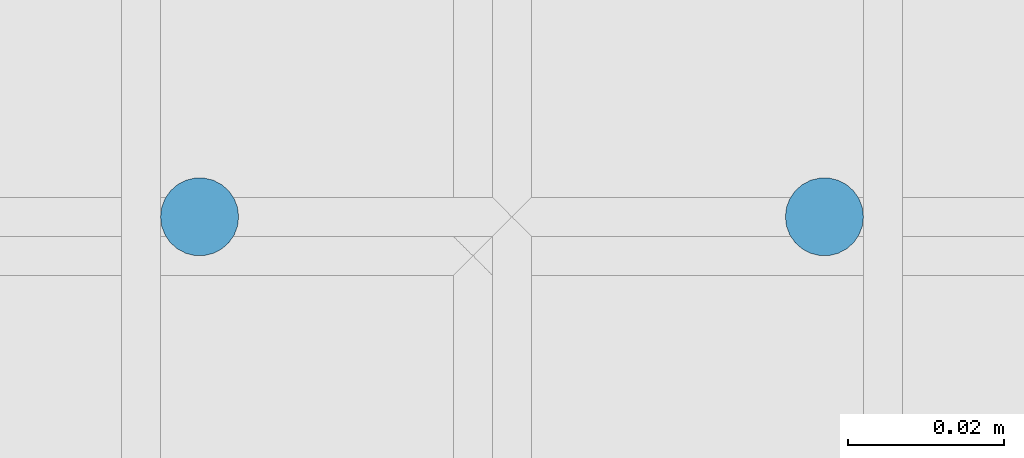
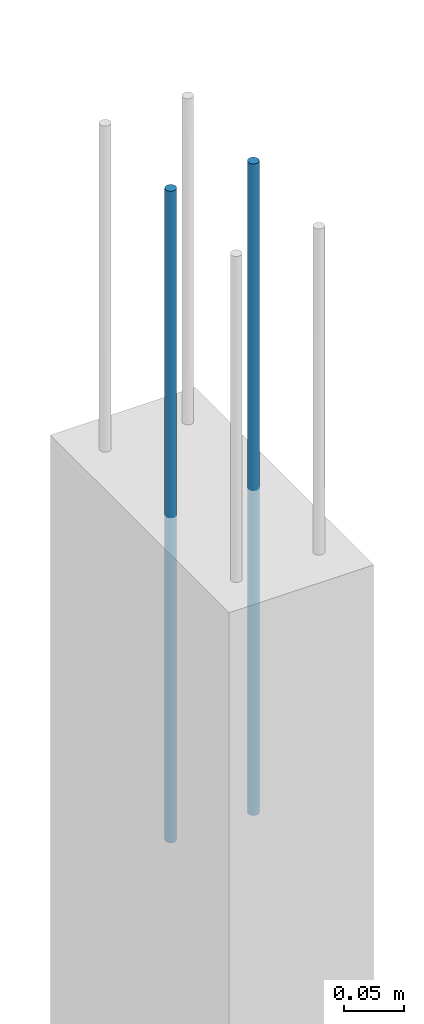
# One storey, part 74 of 119: 2 reinforcing bars.
"""IFC4 building model written with IfcOpenShell, lengths in centimetres."""

import ifcopenshell
import ifcopenshell.guid

model = None  # the IFC model being written
_history = None  # IfcOwnerHistory: only IFC2X3 demands one
_inside = {}  # id of a spatial element -> (the spatial element, [elements in it])
_under = {}  # id of a project, library or spatial element -> (it, [spatial elements below it])
_declared = {}  # id of a project -> (the project, [libraries it declares])
_typed = {}  # id of a type object -> (the type object, [elements of that type])
_made_of = {}  # id of a material, layer set ... -> (it, [elements and type objects made of it])


def new_model(schema):
    """Start an empty IFC model of exactly this schema.

    Asked for "IFC4X3", IfcOpenShell would pick the latest addendum, in which some entities
    have other attributes; the version numbers below select the first issue.
    IFC2X3 requires an IfcOwnerHistory on every rooted entity: one is made here for all.
    """
    global model, _history
    if schema == "IFC4X3":
        model = ifcopenshell.file(schema_version=(4, 3, 0, 0))
    else:
        model = ifcopenshell.file(schema=schema)
    _inside.clear()
    _under.clear()
    _declared.clear()
    _typed.clear()
    _made_of.clear()
    _history = None
    if model.schema == "IFC2X3":
        org = make("IfcOrganization", Name="unknown")
        user = make(
            "IfcPersonAndOrganization",
            ThePerson=make("IfcPerson", FamilyName="unknown"),
            TheOrganization=org,
        )
        app = make(
            "IfcApplication",
            ApplicationDeveloper=org,
            Version="unknown",
            ApplicationFullName="unknown",
            ApplicationIdentifier="unknown",
        )
        _history = make(
            "IfcOwnerHistory",
            OwningUser=user,
            OwningApplication=app,
            ChangeAction="ADDED",
            CreationDate=0,
        )
    return model


def make(cls, **values):
    """One entity of the class cls with the attributes given. An attribute that is None is left unset."""
    return model.create_entity(
        cls, **{name: value for name, value in values.items() if value is not None}
    )


def entity(cls, *values):
    """Any entity or typed value of the class cls, its attributes in the order of the schema. None: left unset."""
    e = model.create_entity(cls)
    for i, value in enumerate(values):
        if value is not None:
            e[i] = value
    return e


def rooted(cls, **values):
    """An entity with a GlobalId (a new one), such as an element, a storey or a relation."""
    return make(cls, GlobalId=ifcopenshell.guid.new(), OwnerHistory=_history, **values)


def si_unit(unit_type, name, prefix=None):
    """IfcSIUnit, for example si_unit("LENGTHUNIT", "METRE", prefix="MILLI")."""
    return make("IfcSIUnit", UnitType=unit_type, Prefix=prefix, Name=name)


def derived_unit(unit_type, elements):
    """IfcDerivedUnit: a product of units, each with its exponent."""
    return make(
        "IfcDerivedUnit",
        Elements=[
            make("IfcDerivedUnitElement", Unit=unit, Exponent=power)
            for unit, power in elements
        ],
        UnitType=unit_type,
    )


def assignment(units):
    """IfcUnitAssignment: the units of a project."""
    return None if units is None else make("IfcUnitAssignment", Units=units)


def point(xyz):
    """IfcCartesianPoint."""
    return None if xyz is None else make("IfcCartesianPoint", Coordinates=xyz)


def direction(xyz):
    """IfcDirection."""
    return None if xyz is None else make("IfcDirection", DirectionRatios=xyz)


def frame(location, z_axis=None, x_axis=None):
    """IfcAxis2Placement3D, a coordinate frame: its origin and axes. An axis left out is left unset."""
    return make(
        "IfcAxis2Placement3D",
        Location=point(location),
        Axis=direction(z_axis),
        RefDirection=direction(x_axis),
    )


def origin_with_axes():
    """The frame at (0, 0, 0) with the z axis (0, 0, 1) and the x axis (1, 0, 0) written out."""
    return frame((0.0, 0.0, 0.0), z_axis=(0.0, 0.0, 1.0), x_axis=(1.0, 0.0, 0.0))


def place(relative_to, where):
    """IfcLocalPlacement: puts the frame where relative to a parent placement (None: the world)."""
    return make(
        "IfcLocalPlacement", PlacementRelTo=relative_to, RelativePlacement=where
    )


def context(
    kind, dimensions, precision=None, world=None, true_north=None, identifier=None
):
    """IfcGeometricRepresentationContext, for example the 3D "Model" context."""
    return make(
        "IfcGeometricRepresentationContext",
        ContextIdentifier=identifier,
        ContextType=kind,
        CoordinateSpaceDimension=dimensions,
        Precision=precision,
        WorldCoordinateSystem=world,
        TrueNorth=true_north,
    )


def project(units=None, contexts=None):
    """IfcProject with its units and contexts."""
    return rooted(
        "IfcProject",
        Name="project",
        RepresentationContexts=contexts,
        UnitsInContext=assignment(units),
    )


def spatial(cls, under=None, at=None, **own):
    """A site, building, storey or space (cls), placed at a placement, below another one or the project."""
    s = rooted(cls, ObjectPlacement=at, **own)
    if under is not None:
        _under.setdefault(under.id(), (under, []))[1].append(s)
    return s


def shape(context_of_items, identifier, shape_type, items):
    """IfcShapeRepresentation: the items that make up one representation, for example the "Body"."""
    return make(
        "IfcShapeRepresentation",
        ContextOfItems=context_of_items,
        RepresentationIdentifier=identifier,
        RepresentationType=shape_type,
        Items=items,
    )


def made_of(thing, what):
    """Note that an element or type object is made of a material, layer set ...; save() writes the relation."""
    if what is not None:
        _made_of.setdefault(what.id(), (what, []))[1].append(thing)
    return thing


def element(
    cls,
    number,
    at=None,
    inside=None,
    cuts=None,
    type_object=None,
    material=None,
    context=None,
    identifier="Body",
    shape_type=None,
    held_by="IfcProductDefinitionShape",
    body=None,
    shapes=None,
    **own,
):
    """One element of the class cls, such as IfcWall. Its Tag is "e" and its number.

    at: its placement. inside: the storey or other place that contains it. cuts: it is an
    opening in that element (IfcRelVoidsElement). A single representation is given by context,
    identifier, shape_type and body (its items); several are given by shapes. held_by: the class
    of the entity that holds the representations. save() writes the other relations.
    """
    e = rooted(cls, Tag="e%d" % number, ObjectPlacement=at, **own)
    if body is not None:
        shapes = [shape(context, identifier, shape_type, body)]
    if shapes is not None:
        e.Representation = make(held_by, Representations=shapes)
    if inside is not None:
        _inside.setdefault(inside.id(), (inside, []))[1].append(e)
    if cuts is not None:
        rooted(
            "IfcRelVoidsElement", RelatingBuildingElement=cuts, RelatedOpeningElement=e
        )
    if type_object is not None:
        _typed.setdefault(type_object.id(), (type_object, []))[1].append(e)
    return made_of(e, material)


def aggregate(whole, parts):
    """IfcRelAggregates: a whole, such as a stair, and the parts it consists of."""
    return rooted("IfcRelAggregates", RelatingObject=whole, RelatedObjects=parts)


def save(model, path):
    """Write the relations noted so far, then the file.

    IfcRelAggregates (storeys below a building ...), IfcRelContainedInSpatialStructure (elements
    in a storey), IfcRelDefinesByType, IfcRelAssociatesMaterial and IfcRelDeclares: one each for
    every whole, place, type object, material and project.
    """
    for whole, parts in _under.values():
        aggregate(whole, parts)
    for where, things in _inside.values():
        rooted(
            "IfcRelContainedInSpatialStructure",
            RelatedElements=things,
            RelatingStructure=where,
        )
    for kind, things in _typed.values():
        rooted("IfcRelDefinesByType", RelatedObjects=things, RelatingType=kind)
    for what, things in _made_of.values():
        rooted("IfcRelAssociatesMaterial", RelatedObjects=things, RelatingMaterial=what)
    for by, libraries in _declared.values():
        rooted("IfcRelDeclares", RelatingContext=by, RelatedDefinitions=libraries)
    model.write(path)


model = new_model("IFC4")

# Units and contexts
model_context = context("Model", 3, precision=1e-05, world=origin_with_axes(), identifier="Body")
ifc_project = project(units=[si_unit("LENGTHUNIT", "METRE", prefix="CENTI"), si_unit("VOLUMEUNIT", "CUBIC_METRE"), si_unit("AREAUNIT", "SQUARE_METRE"), si_unit("POWERUNIT", "WATT"), si_unit("LUMINOUSFLUXUNIT", "LUMEN"), si_unit("ELECTRICCURRENTUNIT", "AMPERE"), si_unit("PRESSUREUNIT", "PASCAL", prefix="KILO"), si_unit("MASSUNIT", "GRAM", prefix="KILO"), si_unit("PLANEANGLEUNIT", "RADIAN"), derived_unit("VOLUMETRICFLOWRATEUNIT", [(si_unit("LENGTHUNIT", "METRE"), 3), (si_unit("TIMEUNIT", "SECOND"), -1)])], contexts=[model_context])

# Site, building, storey
site_placement = place(None, frame((-4000.0, 0.0, 0.0), z_axis=(0.0, 0.0, 1.0), x_axis=(1.0, 0.0, 0.0)))
site = spatial("IfcSite", under=ifc_project, at=site_placement, Name="PADRÃO")
building_placement = place(site_placement, frame((0.0, 0.0, -14.0)))
building = spatial("IfcBuilding", under=site, at=building_placement, Name="CRECHE PRÉ-ESCOLA TIPO 2")
storey_placement = place(building_placement, origin_with_axes())
storey = spatial("IfcBuildingStorey", under=building, at=storey_placement, Name="FUNDAÇÃO", CompositionType="ELEMENT", Elevation=-14.0)

# Reinforcing bars
for number, where, z_axis, x_axis, name in (
    (1, (1122.72, 1028.5, 33.3573001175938), (0.0, 0.0, 1.0), (1.0, 0.0, 0.0), "P119 - Longitudinal"),
    (2, (1114.72, 1028.5, 33.3573001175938), (0.0, 0.0, 1.0), (1.0, 0.0, 0.0), "P119 - Longitudinal"),
):
    element("IfcReinforcingBar", number, at=place(storey_placement, frame(where, z_axis=z_axis, x_axis=x_axis)), inside=storey, Name=name, BarLength=0.0, CrossSectionArea=7.853981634e-05, NominalDiameter=1.0, PredefinedType="MAIN", context=model_context, shape_type="AdvancedSweptSolid", body=[
        entity("IfcSweptDiskSolid", entity("IfcCompositeCurve", [entity("IfcCompositeCurveSegment", "CONTINUOUS", True, entity("IfcPolyline", [entity("IfcCartesianPoint", [0.0, 0.0, -66.7146002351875]), entity("IfcCartesianPoint", [0.0, 0.0, 0.0])]))], False), 0.5),
    ])

save(model, "model.ifc")
